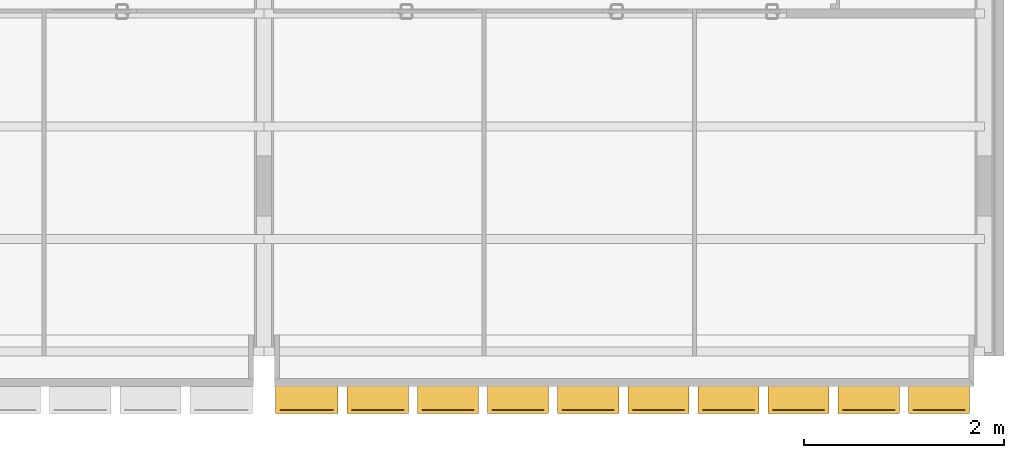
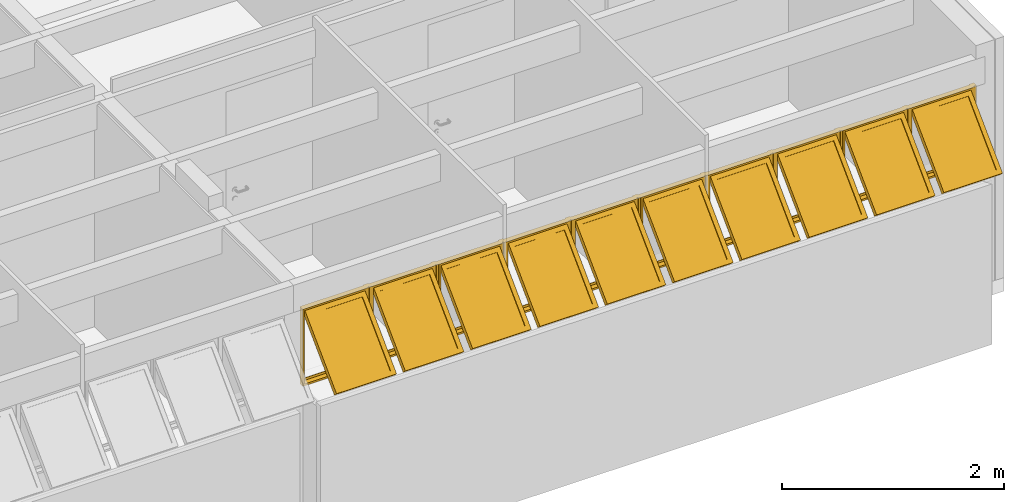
# One storey, part 16 of 22: 1 window.
"""IFC2X3 building model written with IfcOpenShell, lengths in millimetres."""

import ifcopenshell
import ifcopenshell.guid

model = None  # the IFC model being written
_history = None  # IfcOwnerHistory: only IFC2X3 demands one
_inside = {}  # id of a spatial element -> (the spatial element, [elements in it])
_under = {}  # id of a project, library or spatial element -> (it, [spatial elements below it])
_declared = {}  # id of a project -> (the project, [libraries it declares])
_typed = {}  # id of a type object -> (the type object, [elements of that type])
_made_of = {}  # id of a material, layer set ... -> (it, [elements and type objects made of it])


def new_model(schema):
    """Start an empty IFC model of exactly this schema.

    Asked for "IFC4X3", IfcOpenShell would pick the latest addendum, in which some entities
    have other attributes; the version numbers below select the first issue.
    IFC2X3 requires an IfcOwnerHistory on every rooted entity: one is made here for all.
    """
    global model, _history
    if schema == "IFC4X3":
        model = ifcopenshell.file(schema_version=(4, 3, 0, 0))
    else:
        model = ifcopenshell.file(schema=schema)
    _inside.clear()
    _under.clear()
    _declared.clear()
    _typed.clear()
    _made_of.clear()
    _history = None
    if model.schema == "IFC2X3":
        org = make("IfcOrganization", Name="unknown")
        user = make(
            "IfcPersonAndOrganization",
            ThePerson=make("IfcPerson", FamilyName="unknown"),
            TheOrganization=org,
        )
        app = make(
            "IfcApplication",
            ApplicationDeveloper=org,
            Version="unknown",
            ApplicationFullName="unknown",
            ApplicationIdentifier="unknown",
        )
        _history = make(
            "IfcOwnerHistory",
            OwningUser=user,
            OwningApplication=app,
            ChangeAction="ADDED",
            CreationDate=0,
        )
    return model


def make(cls, **values):
    """One entity of the class cls with the attributes given. An attribute that is None is left unset."""
    return model.create_entity(
        cls, **{name: value for name, value in values.items() if value is not None}
    )


def rooted(cls, **values):
    """An entity with a GlobalId (a new one), such as an element, a storey or a relation."""
    return make(cls, GlobalId=ifcopenshell.guid.new(), OwnerHistory=_history, **values)


def si_unit(unit_type, name, prefix=None):
    """IfcSIUnit, for example si_unit("LENGTHUNIT", "METRE", prefix="MILLI")."""
    return make("IfcSIUnit", UnitType=unit_type, Prefix=prefix, Name=name)


def assignment(units):
    """IfcUnitAssignment: the units of a project."""
    return None if units is None else make("IfcUnitAssignment", Units=units)


def point(xyz):
    """IfcCartesianPoint."""
    return None if xyz is None else make("IfcCartesianPoint", Coordinates=xyz)


def direction(xyz):
    """IfcDirection."""
    return None if xyz is None else make("IfcDirection", DirectionRatios=xyz)


def frame(location, z_axis=None, x_axis=None):
    """IfcAxis2Placement3D, a coordinate frame: its origin and axes. An axis left out is left unset."""
    return make(
        "IfcAxis2Placement3D",
        Location=point(location),
        Axis=direction(z_axis),
        RefDirection=direction(x_axis),
    )


def frame_2d(location, x_axis=None):
    """IfcAxis2Placement2D, a coordinate frame in the plane: its origin and x axis."""
    return make(
        "IfcAxis2Placement2D", Location=point(location), RefDirection=direction(x_axis)
    )


def origin_with_axes():
    """The frame at (0, 0, 0) with the z axis (0, 0, 1) and the x axis (1, 0, 0) written out."""
    return frame((0.0, 0.0, 0.0), z_axis=(0.0, 0.0, 1.0), x_axis=(1.0, 0.0, 0.0))


def origin_2d_with_axis():
    """The frame at (0, 0) in the plane with the x axis (1, 0) written out."""
    return frame_2d((0.0, 0.0), x_axis=(1.0, 0.0))


def place(relative_to, where):
    """IfcLocalPlacement: puts the frame where relative to a parent placement (None: the world)."""
    return make(
        "IfcLocalPlacement", PlacementRelTo=relative_to, RelativePlacement=where
    )


def context(
    kind, dimensions, precision=None, world=None, true_north=None, identifier=None
):
    """IfcGeometricRepresentationContext, for example the 3D "Model" context."""
    return make(
        "IfcGeometricRepresentationContext",
        ContextIdentifier=identifier,
        ContextType=kind,
        CoordinateSpaceDimension=dimensions,
        Precision=precision,
        WorldCoordinateSystem=world,
        TrueNorth=true_north,
    )


def subcontext(parent, identifier, kind, view, scale=None):
    """IfcGeometricRepresentationSubContext, for example "Body" below "Model"."""
    return make(
        "IfcGeometricRepresentationSubContext",
        ContextIdentifier=identifier,
        ContextType=kind,
        ParentContext=parent,
        TargetScale=scale,
        TargetView=view,
    )


def project(units=None, contexts=None):
    """IfcProject with its units and contexts."""
    return rooted(
        "IfcProject",
        Name="project",
        RepresentationContexts=contexts,
        UnitsInContext=assignment(units),
    )


def spatial(cls, under=None, at=None, **own):
    """A site, building, storey or space (cls), placed at a placement, below another one or the project."""
    s = rooted(cls, ObjectPlacement=at, **own)
    if under is not None:
        _under.setdefault(under.id(), (under, []))[1].append(s)
    return s


def polyline(points):
    """IfcPolyline through the points."""
    return make("IfcPolyline", Points=[point(p) for p in points])


def profile(cls, at=None, kind="AREA", **sizes):
    """A parametric profile (cls). Its sizes go by their IFC names, for example OverallWidth=200.0."""
    return make(cls, ProfileType=kind, Position=at, **sizes)


def rectangle(**sizes):
    """IfcRectangleProfileDef."""
    return profile("IfcRectangleProfileDef", **sizes)


def outline(outer, holes=None, kind="AREA"):
    """IfcArbitraryClosedProfileDef: a profile drawn as a closed curve; with holes, ...WithVoids."""
    if holes is None:
        return make("IfcArbitraryClosedProfileDef", ProfileType=kind, OuterCurve=outer)
    return make(
        "IfcArbitraryProfileDefWithVoids",
        ProfileType=kind,
        OuterCurve=outer,
        InnerCurves=holes,
    )


def extrude(swept, where, along, depth):
    """IfcExtrudedAreaSolid: the profile swept, set in the frame where, extruded along a direction by depth."""
    return make(
        "IfcExtrudedAreaSolid",
        SweptArea=swept,
        Position=where,
        ExtrudedDirection=direction(along),
        Depth=depth,
    )


def shape(context_of_items, identifier, shape_type, items):
    """IfcShapeRepresentation: the items that make up one representation, for example the "Body"."""
    return make(
        "IfcShapeRepresentation",
        ContextOfItems=context_of_items,
        RepresentationIdentifier=identifier,
        RepresentationType=shape_type,
        Items=items,
    )


def source(mapping_origin, context_of_items, identifier, shape_type, items):
    """IfcRepresentationMap: a shape defined once, which mapped items show again and again."""
    return make(
        "IfcRepresentationMap",
        MappingOrigin=mapping_origin,
        MappedRepresentation=shape(context_of_items, identifier, shape_type, items),
    )


def transform(
    local_origin,
    x_axis=None,
    y_axis=None,
    z_axis=None,
    scale=None,
    scale2=None,
    scale3=None,
    uniform=True,
):
    """IfcCartesianTransformationOperator3D, or its non-uniform kind. x_axis, y_axis, z_axis: its Axis1, 2, 3."""
    if uniform:
        return make(
            "IfcCartesianTransformationOperator3D",
            Axis1=direction(x_axis),
            Axis2=direction(y_axis),
            LocalOrigin=point(local_origin),
            Scale=scale,
            Axis3=direction(z_axis),
        )
    return make(
        "IfcCartesianTransformationOperator3DnonUniform",
        Axis1=direction(x_axis),
        Axis2=direction(y_axis),
        LocalOrigin=point(local_origin),
        Scale=scale,
        Axis3=direction(z_axis),
        Scale2=scale2,
        Scale3=scale3,
    )


def mapped(mapping_source, mapping_target):
    """IfcMappedItem: shows the shape of a source again, moved by a transform."""
    return make(
        "IfcMappedItem", MappingSource=mapping_source, MappingTarget=mapping_target
    )


def made_of(thing, what):
    """Note that an element or type object is made of a material, layer set ...; save() writes the relation."""
    if what is not None:
        _made_of.setdefault(what.id(), (what, []))[1].append(thing)
    return thing


def type_object(cls, material=None, **own):
    """A type object (cls), such as IfcWallType, which elements share."""
    return made_of(rooted(cls, **own), material)


def type_shapes(of_type, sources):
    """Give a type object the sources (RepresentationMaps) that its elements show as mapped items."""
    of_type.RepresentationMaps = sources


def element(
    cls,
    number,
    at=None,
    inside=None,
    cuts=None,
    type_object=None,
    material=None,
    context=None,
    identifier="Body",
    shape_type=None,
    held_by="IfcProductDefinitionShape",
    body=None,
    shapes=None,
    **own,
):
    """One element of the class cls, such as IfcWall. Its Tag is "e" and its number.

    at: its placement. inside: the storey or other place that contains it. cuts: it is an
    opening in that element (IfcRelVoidsElement). A single representation is given by context,
    identifier, shape_type and body (its items); several are given by shapes. held_by: the class
    of the entity that holds the representations. save() writes the other relations.
    """
    e = rooted(cls, Tag="e%d" % number, ObjectPlacement=at, **own)
    if body is not None:
        shapes = [shape(context, identifier, shape_type, body)]
    if shapes is not None:
        e.Representation = make(held_by, Representations=shapes)
    if inside is not None:
        _inside.setdefault(inside.id(), (inside, []))[1].append(e)
    if cuts is not None:
        rooted(
            "IfcRelVoidsElement", RelatingBuildingElement=cuts, RelatedOpeningElement=e
        )
    if type_object is not None:
        _typed.setdefault(type_object.id(), (type_object, []))[1].append(e)
    return made_of(e, material)


def aggregate(whole, parts):
    """IfcRelAggregates: a whole, such as a stair, and the parts it consists of."""
    return rooted("IfcRelAggregates", RelatingObject=whole, RelatedObjects=parts)


def save(model, path):
    """Write the relations noted so far, then the file.

    IfcRelAggregates (storeys below a building ...), IfcRelContainedInSpatialStructure (elements
    in a storey), IfcRelDefinesByType, IfcRelAssociatesMaterial and IfcRelDeclares: one each for
    every whole, place, type object, material and project.
    """
    for whole, parts in _under.values():
        aggregate(whole, parts)
    for where, things in _inside.values():
        rooted(
            "IfcRelContainedInSpatialStructure",
            RelatedElements=things,
            RelatingStructure=where,
        )
    for kind, things in _typed.values():
        rooted("IfcRelDefinesByType", RelatedObjects=things, RelatingType=kind)
    for what, things in _made_of.values():
        rooted("IfcRelAssociatesMaterial", RelatedObjects=things, RelatingMaterial=what)
    for by, libraries in _declared.values():
        rooted("IfcRelDeclares", RelatingContext=by, RelatedDefinitions=libraries)
    model.write(path)


model = new_model("IFC2X3")

# Units and contexts
model_context = context("Model", 3, precision=1e-05, world=origin_with_axes(), true_north=direction((0.0, 1.0)))
body_context = subcontext(model_context, "Body", "Model", "MODEL_VIEW")
ifc_project = project(units=[si_unit("LENGTHUNIT", "METRE", prefix="MILLI"), si_unit("AREAUNIT", "SQUARE_METRE"), si_unit("VOLUMEUNIT", "CUBIC_METRE"), si_unit("PLANEANGLEUNIT", "RADIAN"), si_unit("TIMEUNIT", "SECOND"), si_unit("MASSUNIT", "GRAM")], contexts=[model_context])

# Site, building, storey
site_placement = place(None, origin_with_axes())
site = spatial("IfcSite", under=ifc_project, at=site_placement, Name="Site", CompositionType="ELEMENT")
building_placement = place(site_placement, origin_with_axes())
building = spatial("IfcBuilding", under=site, at=building_placement, Name="Construção", CompositionType="COMPLEX")
storey_placement = place(building_placement, frame((0.0, 0.0, 2650.0), z_axis=(0.0, 0.0, 1.0), x_axis=(1.0, 0.0, 0.0)))
storey = spatial("IfcBuildingStorey", under=building, at=storey_placement, Name="Segundo Pavimento", CompositionType="COMPLEX", Elevation=2650.0)

# Window
window_style = type_object("IfcWindowStyle", ConstructionType="NOTDEFINED", OperationType="NOTDEFINED", ParameterTakesPrecedence=False, Sizeable=False)
shared_shape_1 = source(origin_with_axes(), body_context, "Body", "SweptSolid", [
    extrude(outline(polyline([(324.99999695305, -22.5), (-324.99999695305, -22.5), (-279.99999695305, 22.5), (279.99999695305, 22.5), (324.99999695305, -22.5)])), frame((-350.0000005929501, 22.5, -40.0), z_axis=(0.0, 0.0, 1.0), x_axis=(1.0, 0.0, 0.0)), (0.0, 0.0, 1.0), 5.0),
    extrude(outline(polyline([(-22.5, -422.499945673), (-22.5, 422.499945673), (22.5, 377.499945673), (22.5, -377.499945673), (-22.5, -422.499945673)])), frame((-652.499997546, 422.499945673, -40.0), z_axis=(0.0, 0.0, 1.0), x_axis=(1.0, 0.0, 0.0)), (0.0, 0.0, 1.0), 5.0),
    extrude(outline(polyline([(324.99999695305, 22.5), (279.99999695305, -22.5), (-279.9999969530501, -22.5), (-324.9999969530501, 22.5), (324.99999695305, 22.5)])), frame((-350.00000059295, 822.499891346, -40.0), z_axis=(0.0, 0.0, 1.0), x_axis=(1.0, 0.0, 0.0)), (0.0, 0.0, 1.0), 5.0),
    extrude(outline(polyline([(22.5, -422.499945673), (-22.5, -377.499945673), (-22.5, 377.499945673), (22.5, 422.499945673), (22.5, -422.499945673)])), frame((-47.5000036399, 422.499945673, -40.0), z_axis=(0.0, 0.0, 1.0), x_axis=(1.0, 0.0, 0.0)), (0.0, 0.0, 1.0), 5.0),
    extrude(outline(polyline([(324.99999695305, -10.0), (-324.99999695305, -10.0), (-304.99999695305, 10.0), (304.99999695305, 10.0), (324.99999695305, -10.0)])), frame((-350.0000005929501, 10.0, -35.0), z_axis=(0.0, 0.0, 1.0), x_axis=(1.0, 0.0, 0.0)), (0.0, 0.0, 1.0), 50.0),
    extrude(outline(polyline([(-10.0, -422.499945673), (-10.0, 422.499945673), (10.0, 402.499945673), (10.0, -402.499945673), (-10.0, -422.499945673)])), frame((-664.999997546, 422.499945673, -35.0), z_axis=(0.0, 0.0, 1.0), x_axis=(1.0, 0.0, 0.0)), (0.0, 0.0, 1.0), 50.0),
    extrude(outline(polyline([(324.99999695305, 10.0), (304.99999695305, -10.0), (-304.9999969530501, -10.0), (-324.9999969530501, 10.0), (324.99999695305, 10.0)])), frame((-350.00000059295, 834.999891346, -35.0), z_axis=(0.0, 0.0, 1.0), x_axis=(1.0, 0.0, 0.0)), (0.0, 0.0, 1.0), 50.0),
    extrude(outline(polyline([(10.0, -422.499945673), (-10.0, -402.499945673), (-10.0, 402.499945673), (10.0, 422.499945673), (10.0, -422.499945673)])), frame((-35.0000036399, 422.499945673, -35.0), z_axis=(0.0, 0.0, 1.0), x_axis=(1.0, 0.0, 0.0)), (0.0, 0.0, 1.0), 50.0),
    extrude(rectangle(XDim=844.999891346, YDim=19.99999787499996, at=frame_2d((0.0, 0.0), x_axis=(0.0, 1.0))), frame((-684.9999964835, 422.499945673, -10.0), z_axis=(0.0, 0.0, 1.0), x_axis=(1.0, 0.0, 0.0)), (0.0, 0.0, 1.0), 20.0),
    extrude(rectangle(XDim=844.999891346, YDim=19.99999787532, at=frame_2d((0.0, 0.0), x_axis=(0.0, 1.0))), frame((-15.00000470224, 422.499945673, -10.0), z_axis=(0.0, 0.0, 1.0), x_axis=(1.0, 0.0, 0.0)), (0.0, 0.0, 1.0), 20.0),
    extrude(outline(polyline([(-22.5, -357.4999456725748), (-22.50000000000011, 357.499945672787), (22.5, 402.4999456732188), (22.5, -402.4999456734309), (-22.5, -357.4999456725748)])), frame((-67.5000036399, 505.034111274, 264.2551019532), z_axis=(4.714640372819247e-12, 0.7071067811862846, 0.7071067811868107), x_axis=(1.0, 0.0, 0.0)), (0.0, 0.0, 1.0), 55.00000000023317),
    extrude(outline(polyline([(-22.5, -402.4999456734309), (-22.50000000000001, 402.4999456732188), (22.5, 357.499945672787), (22.5, -357.4999456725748), (-22.5, -402.4999456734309)])), frame((-632.499997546, 505.034111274, 264.2551019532), z_axis=(4.714640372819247e-12, 0.7071067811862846, 0.7071067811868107), x_axis=(1.0, 0.0, 0.0)), (0.0, 0.0, 1.0), 55.00000000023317),
    extrude(outline(polyline([(-304.9999969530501, -22.50000000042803), (-259.9999969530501, 22.50000000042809), (259.99999695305, 22.50000000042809), (304.99999695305, -22.50000000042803), (-304.9999969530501, -22.50000000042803)])), frame((-350.0000005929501, 236.333572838, 532.955640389), z_axis=(4.714640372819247e-12, 0.7071067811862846, 0.7071067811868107), x_axis=(1.0, 0.0, 0.0)), (0.0, 0.0, 1.0), 55.00000000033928),
    extrude(outline(polyline([(304.99999695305, 22.500000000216), (259.99999695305, -22.500000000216), (-259.9999969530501, -22.500000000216), (-304.9999969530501, 22.500000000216), (304.99999695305, 22.500000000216)])), frame((-350.00000059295, 773.73464971, -4.4454364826), z_axis=(4.714640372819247e-12, 0.7071067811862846, 0.7071067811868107), x_axis=(1.0, 0.0, 0.0)), (0.0, 0.0, 1.0), 55.00000000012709),
])
shared_shape_2 = source(origin_with_axes(), body_context, "Body", "SweptSolid", [
    extrude(rectangle(XDim=519.9999939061, YDim=16.00000000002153, at=origin_2d_with_axis()), frame((-350.0000005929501, 783.9876980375, 37.627416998), z_axis=(0.0, -0.7071067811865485, 0.7071067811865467), x_axis=(1.0, 0.0, 0.0)), (0.0, 0.0, 1.0), 714.9998913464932),
])
shared_shape_3 = source(origin_with_axes(), body_context, "Body", "MappedRepresentation", [
    mapped(shared_shape_1, transform((8870.0, 315.020977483, 4005.02054151), x_axis=(1.0, 0.0, 0.0), y_axis=(0.0, 0.0, 1.0), z_axis=(0.0, -1.0, 0.0), scale=1.0)),
    mapped(shared_shape_2, transform((8870.0, 315.020977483, 4005.02054151), x_axis=(1.0, 0.0, 0.0), y_axis=(0.0, 0.0, 1.0), z_axis=(0.0, -1.0, 0.0), scale=1.0)),
])
shared_shape_4 = source(origin_with_axes(), body_context, "Body", "SweptSolid", [
    extrude(outline(polyline([(332.50003730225, -22.5), (-332.50003730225, -22.5), (-287.50003730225, 22.5), (287.50003730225, 22.5), (332.50003730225, -22.5)])), frame((-357.50004190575, 22.5, -40.0), z_axis=(0.0, 0.0, 1.0), x_axis=(1.0, 0.0, 0.0)), (0.0, 0.0, 1.0), 5.0),
    extrude(outline(polyline([(-22.5, -422.499961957), (-22.5, 422.499961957), (22.5, 377.499961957), (22.5, -377.499961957), (-22.5, -422.499961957)])), frame((-667.500079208, 422.499961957, -40.0), z_axis=(0.0, 0.0, 1.0), x_axis=(1.0, 0.0, 0.0)), (0.0, 0.0, 1.0), 5.0),
    extrude(outline(polyline([(332.50003730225, 22.5), (287.50003730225, -22.5), (-287.50003730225, -22.5), (-332.50003730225, 22.5), (332.50003730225, 22.5)])), frame((-357.50004190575, 822.499923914, -40.0), z_axis=(0.0, 0.0, 1.0), x_axis=(1.0, 0.0, 0.0)), (0.0, 0.0, 1.0), 5.0),
    extrude(outline(polyline([(22.5, -422.499961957), (-22.5, -377.499961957), (-22.5, 377.499961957), (22.5, 422.499961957), (22.5, -422.499961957)])), frame((-47.5000046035, 422.499961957, -40.0), z_axis=(0.0, 0.0, 1.0), x_axis=(1.0, 0.0, 0.0)), (0.0, 0.0, 1.0), 5.0),
    extrude(outline(polyline([(332.50003730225, -10.0), (-332.50003730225, -10.0), (-312.50003730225, 10.0), (312.50003730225, 10.0), (332.50003730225, -10.0)])), frame((-357.50004190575, 10.0, -35.0), z_axis=(0.0, 0.0, 1.0), x_axis=(1.0, 0.0, 0.0)), (0.0, 0.0, 1.0), 50.0),
    extrude(outline(polyline([(-10.0, -422.499961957), (-10.0, 422.499961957), (10.0, 402.499961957), (10.0, -402.499961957), (-10.0, -422.499961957)])), frame((-680.000079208, 422.499961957, -35.0), z_axis=(0.0, 0.0, 1.0), x_axis=(1.0, 0.0, 0.0)), (0.0, 0.0, 1.0), 50.0),
    extrude(outline(polyline([(332.50003730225, 10.0), (312.50003730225, -10.0), (-312.50003730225, -10.0), (-332.50003730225, 10.0), (332.50003730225, 10.0)])), frame((-357.50004190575, 834.999923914, -35.0), z_axis=(0.0, 0.0, 1.0), x_axis=(1.0, 0.0, 0.0)), (0.0, 0.0, 1.0), 50.0),
    extrude(outline(polyline([(10.0, -422.499961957), (-10.0, -402.499961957), (-10.0, 402.499961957), (10.0, 422.499961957), (10.0, -422.499961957)])), frame((-35.0000046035, 422.499961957, -35.0), z_axis=(0.0, 0.0, 1.0), x_axis=(1.0, 0.0, 0.0)), (0.0, 0.0, 1.0), 50.0),
    extrude(rectangle(XDim=844.999923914, YDim=19.99999864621, at=frame_2d((0.0, 0.0), x_axis=(0.0, 1.0))), frame((-15.000005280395, 422.499961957, -10.0), z_axis=(0.0, 0.0, 1.0), x_axis=(1.0, 0.0, 0.0)), (0.0, 0.0, 1.0), 20.0),
    extrude(outline(polyline([(-22.50000000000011, -357.4999619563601), (-22.50000000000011, 357.4999619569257), (22.5, 402.4999619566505), (22.5, -402.4999619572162), (-22.50000000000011, -357.4999619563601)])), frame((-67.5000046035, 505.03413232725, 264.2551134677), z_axis=(4.714640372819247e-12, 0.7071067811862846, 0.7071067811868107), x_axis=(1.0, 0.0, 0.0)), (0.0, 0.0, 1.0), 54.99999999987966),
    extrude(outline(polyline([(-22.50000000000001, -402.4999619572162), (-22.50000000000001, 402.4999619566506), (22.49999999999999, 357.4999619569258), (22.5, -357.49996195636), (-22.50000000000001, -402.4999619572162)])), frame((-647.500079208, 505.0341323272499, 264.2551134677), z_axis=(4.714640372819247e-12, 0.7071067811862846, 0.7071067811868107), x_axis=(1.0, 0.0, 0.0)), (0.0, 0.0, 1.0), 54.9999999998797),
    extrude(outline(polyline([(-312.50003730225, -22.50000000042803), (-267.50003730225, 22.50000000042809), (267.50003730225, 22.50000000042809), (312.50003730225, -22.50000000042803), (-312.50003730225, -22.50000000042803)])), frame((-357.50004190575, 236.333582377, 532.955663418), z_axis=(4.714640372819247e-12, 0.7071067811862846, 0.7071067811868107), x_axis=(1.0, 0.0, 0.0)), (0.0, 0.0, 1.0), 54.99999999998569),
    extrude(outline(polyline([(312.50003730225, 22.49999999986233), (267.50003730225, -22.49999999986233), (-267.50003730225, -22.49999999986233), (-312.50003730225, 22.49999999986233), (312.50003730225, 22.49999999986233)])), frame((-357.50004190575, 773.7346822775, -4.4454364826), z_axis=(4.714640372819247e-12, 0.7071067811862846, 0.7071067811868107), x_axis=(1.0, 0.0, 0.0)), (0.0, 0.0, 1.0), 54.99999999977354),
])
shared_shape_5 = source(origin_with_axes(), body_context, "Body", "SweptSolid", [
    extrude(rectangle(XDim=535.0000746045, YDim=16.00000000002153, at=origin_2d_with_axis()), frame((-357.50004190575, 783.9877306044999, 37.627416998), z_axis=(0.0, -0.7071067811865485, 0.7071067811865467), x_axis=(1.0, 0.0, 0.0)), (0.0, 0.0, 1.0), 714.9999239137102),
])
shared_shape_6 = source(origin_with_axes(), body_context, "Body", "MappedRepresentation", [
    mapped(shared_shape_4, transform((8170.0, 315.020977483, 4005.020541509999), x_axis=(1.0, 0.0, 0.0), y_axis=(0.0, 0.0, 1.0), z_axis=(0.0, -1.0, 0.0), scale=1.0)),
    mapped(shared_shape_5, transform((8170.0, 315.020977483, 4005.020541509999), x_axis=(1.0, 0.0, 0.0), y_axis=(0.0, 0.0, 1.0), z_axis=(0.0, -1.0, 0.0), scale=1.0)),
])
shared_shape_7 = source(origin_with_axes(), body_context, "Body", "SweptSolid", [
    extrude(outline(polyline([(324.99999695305, -22.5), (-324.99999695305, -22.5), (-279.99999695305, 22.5), (279.99999695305, 22.5), (324.99999695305, -22.5)])), frame((-350.0000005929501, 22.5, -40.0), z_axis=(0.0, 0.0, 1.0), x_axis=(1.0, 0.0, 0.0)), (0.0, 0.0, 1.0), 5.0),
    extrude(outline(polyline([(-22.5, -422.499945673), (-22.5, 422.499945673), (22.5, 377.499945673), (22.5, -377.499945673), (-22.5, -422.499945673)])), frame((-652.499997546, 422.499945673, -40.0), z_axis=(0.0, 0.0, 1.0), x_axis=(1.0, 0.0, 0.0)), (0.0, 0.0, 1.0), 5.0),
    extrude(outline(polyline([(324.99999695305, 22.5), (279.99999695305, -22.5), (-279.9999969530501, -22.5), (-324.9999969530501, 22.5), (324.99999695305, 22.5)])), frame((-350.00000059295, 822.499891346, -40.0), z_axis=(0.0, 0.0, 1.0), x_axis=(1.0, 0.0, 0.0)), (0.0, 0.0, 1.0), 5.0),
    extrude(outline(polyline([(22.5, -422.499945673), (-22.5, -377.499945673), (-22.5, 377.499945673), (22.5, 422.499945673), (22.5, -422.499945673)])), frame((-47.5000036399, 422.499945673, -40.0), z_axis=(0.0, 0.0, 1.0), x_axis=(1.0, 0.0, 0.0)), (0.0, 0.0, 1.0), 5.0),
    extrude(outline(polyline([(324.99999695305, -10.0), (-324.99999695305, -10.0), (-304.99999695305, 10.0), (304.99999695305, 10.0), (324.99999695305, -10.0)])), frame((-350.0000005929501, 10.0, -35.0), z_axis=(0.0, 0.0, 1.0), x_axis=(1.0, 0.0, 0.0)), (0.0, 0.0, 1.0), 50.0),
    extrude(outline(polyline([(-10.0, -422.499945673), (-10.0, 422.499945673), (10.0, 402.499945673), (10.0, -402.499945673), (-10.0, -422.499945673)])), frame((-664.999997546, 422.499945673, -35.0), z_axis=(0.0, 0.0, 1.0), x_axis=(1.0, 0.0, 0.0)), (0.0, 0.0, 1.0), 50.0),
    extrude(outline(polyline([(324.99999695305, 10.0), (304.99999695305, -10.0), (-304.9999969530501, -10.0), (-324.9999969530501, 10.0), (324.99999695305, 10.0)])), frame((-350.00000059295, 834.999891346, -35.0), z_axis=(0.0, 0.0, 1.0), x_axis=(1.0, 0.0, 0.0)), (0.0, 0.0, 1.0), 50.0),
    extrude(outline(polyline([(10.0, -422.499945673), (-10.0, -402.499945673), (-10.0, 402.499945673), (10.0, 422.499945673), (10.0, -422.499945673)])), frame((-35.0000036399, 422.499945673, -35.0), z_axis=(0.0, 0.0, 1.0), x_axis=(1.0, 0.0, 0.0)), (0.0, 0.0, 1.0), 50.0),
    extrude(rectangle(XDim=844.999891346, YDim=19.99999787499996, at=frame_2d((0.0, 0.0), x_axis=(0.0, 1.0))), frame((-684.9999964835, 422.499945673, -10.0), z_axis=(0.0, 0.0, 1.0), x_axis=(1.0, 0.0, 0.0)), (0.0, 0.0, 1.0), 20.0),
    extrude(rectangle(XDim=844.999891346, YDim=19.99999787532, at=frame_2d((0.0, 0.0), x_axis=(0.0, 1.0))), frame((-15.00000470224, 422.499945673, -10.0), z_axis=(0.0, 0.0, 1.0), x_axis=(1.0, 0.0, 0.0)), (0.0, 0.0, 1.0), 20.0),
    extrude(outline(polyline([(-22.5, -357.4999456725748), (-22.50000000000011, 357.499945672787), (22.5, 402.4999456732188), (22.5, -402.4999456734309), (-22.5, -357.4999456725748)])), frame((-67.5000036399, 505.034111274, 264.2551019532), z_axis=(4.714640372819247e-12, 0.7071067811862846, 0.7071067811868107), x_axis=(1.0, 0.0, 0.0)), (0.0, 0.0, 1.0), 55.00000000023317),
    extrude(outline(polyline([(-22.5, -402.4999456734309), (-22.50000000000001, 402.4999456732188), (22.5, 357.499945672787), (22.5, -357.4999456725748), (-22.5, -402.4999456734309)])), frame((-632.499997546, 505.034111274, 264.2551019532), z_axis=(4.714640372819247e-12, 0.7071067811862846, 0.7071067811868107), x_axis=(1.0, 0.0, 0.0)), (0.0, 0.0, 1.0), 55.00000000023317),
    extrude(outline(polyline([(-304.9999969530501, -22.50000000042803), (-259.9999969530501, 22.50000000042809), (259.99999695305, 22.50000000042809), (304.99999695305, -22.50000000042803), (-304.9999969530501, -22.50000000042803)])), frame((-350.0000005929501, 236.333572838, 532.955640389), z_axis=(4.714640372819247e-12, 0.7071067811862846, 0.7071067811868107), x_axis=(1.0, 0.0, 0.0)), (0.0, 0.0, 1.0), 55.00000000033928),
    extrude(outline(polyline([(304.99999695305, 22.500000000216), (259.99999695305, -22.500000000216), (-259.9999969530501, -22.500000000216), (-304.9999969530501, 22.500000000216), (304.99999695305, 22.500000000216)])), frame((-350.00000059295, 773.73464971, -4.4454364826), z_axis=(4.714640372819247e-12, 0.7071067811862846, 0.7071067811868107), x_axis=(1.0, 0.0, 0.0)), (0.0, 0.0, 1.0), 55.00000000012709),
])
shared_shape_8 = source(origin_with_axes(), body_context, "Body", "SweptSolid", [
    extrude(rectangle(XDim=519.9999939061, YDim=16.00000000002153, at=origin_2d_with_axis()), frame((-350.0000005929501, 783.9876980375, 37.627416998), z_axis=(0.0, -0.7071067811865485, 0.7071067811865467), x_axis=(1.0, 0.0, 0.0)), (0.0, 0.0, 1.0), 714.9998913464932),
])
shared_shape_9 = source(origin_with_axes(), body_context, "Body", "MappedRepresentation", [
    mapped(shared_shape_7, transform((14470.0, 315.020977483, 4005.02054151), x_axis=(1.0, 0.0, 0.0), y_axis=(0.0, 0.0, 1.0), z_axis=(0.0, -1.0, 0.0), scale=1.0)),
    mapped(shared_shape_8, transform((14470.0, 315.020977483, 4005.02054151), x_axis=(1.0, 0.0, 0.0), y_axis=(0.0, 0.0, 1.0), z_axis=(0.0, -1.0, 0.0), scale=1.0)),
])
shared_shape_10 = source(origin_with_axes(), body_context, "Body", "MappedRepresentation", [
    mapped(shared_shape_7, transform((13770.0, 315.020977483, 4005.02054151), x_axis=(1.0, 0.0, 0.0), y_axis=(0.0, 0.0, 1.0), z_axis=(0.0, -1.0, 0.0), scale=1.0)),
    mapped(shared_shape_8, transform((13770.0, 315.020977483, 4005.02054151), x_axis=(1.0, 0.0, 0.0), y_axis=(0.0, 0.0, 1.0), z_axis=(0.0, -1.0, 0.0), scale=1.0)),
])
shared_shape_11 = source(origin_with_axes(), body_context, "Body", "SweptSolid", [
    extrude(outline(polyline([(324.99999695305, -22.5), (-324.99999695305, -22.5), (-279.99999695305, 22.5), (279.99999695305, 22.5), (324.99999695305, -22.5)])), frame((-350.0000005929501, 22.5, -40.0), z_axis=(0.0, 0.0, 1.0), x_axis=(1.0, 0.0, 0.0)), (0.0, 0.0, 1.0), 5.0),
    extrude(outline(polyline([(-22.5, -422.499945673), (-22.5, 422.499945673), (22.5, 377.499945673), (22.5, -377.499945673), (-22.5, -422.499945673)])), frame((-652.499997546, 422.499945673, -40.0), z_axis=(0.0, 0.0, 1.0), x_axis=(1.0, 0.0, 0.0)), (0.0, 0.0, 1.0), 5.0),
    extrude(outline(polyline([(324.99999695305, 22.5), (279.99999695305, -22.5), (-279.9999969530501, -22.5), (-324.9999969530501, 22.5), (324.99999695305, 22.5)])), frame((-350.00000059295, 822.499891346, -40.0), z_axis=(0.0, 0.0, 1.0), x_axis=(1.0, 0.0, 0.0)), (0.0, 0.0, 1.0), 5.0),
    extrude(outline(polyline([(22.5, -422.499945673), (-22.5, -377.499945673), (-22.5, 377.499945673), (22.5, 422.499945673), (22.5, -422.499945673)])), frame((-47.5000036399, 422.499945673, -40.0), z_axis=(0.0, 0.0, 1.0), x_axis=(1.0, 0.0, 0.0)), (0.0, 0.0, 1.0), 5.0),
    extrude(outline(polyline([(324.99999695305, -10.0), (-324.99999695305, -10.0), (-304.99999695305, 10.0), (304.99999695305, 10.0), (324.99999695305, -10.0)])), frame((-350.0000005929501, 10.0, -35.0), z_axis=(0.0, 0.0, 1.0), x_axis=(1.0, 0.0, 0.0)), (0.0, 0.0, 1.0), 50.0),
    extrude(outline(polyline([(-10.0, -422.499945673), (-10.0, 422.499945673), (10.0, 402.499945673), (10.0, -402.499945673), (-10.0, -422.499945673)])), frame((-664.999997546, 422.499945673, -35.0), z_axis=(0.0, 0.0, 1.0), x_axis=(1.0, 0.0, 0.0)), (0.0, 0.0, 1.0), 50.0),
    extrude(outline(polyline([(324.99999695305, 10.0), (304.99999695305, -10.0), (-304.9999969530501, -10.0), (-324.9999969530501, 10.0), (324.99999695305, 10.0)])), frame((-350.00000059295, 834.999891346, -35.0), z_axis=(0.0, 0.0, 1.0), x_axis=(1.0, 0.0, 0.0)), (0.0, 0.0, 1.0), 50.0),
    extrude(outline(polyline([(10.0, -422.499945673), (-10.0, -402.499945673), (-10.0, 402.499945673), (10.0, 422.499945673), (10.0, -422.499945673)])), frame((-35.0000036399, 422.499945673, -35.0), z_axis=(0.0, 0.0, 1.0), x_axis=(1.0, 0.0, 0.0)), (0.0, 0.0, 1.0), 50.0),
    extrude(rectangle(XDim=844.999891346, YDim=19.99999787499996, at=frame_2d((0.0, 0.0), x_axis=(0.0, 1.0))), frame((-684.9999964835, 422.499945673, -10.0), z_axis=(0.0, 0.0, 1.0), x_axis=(1.0, 0.0, 0.0)), (0.0, 0.0, 1.0), 20.0),
    extrude(rectangle(XDim=844.999891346, YDim=19.99999787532, at=frame_2d((0.0, 0.0), x_axis=(0.0, 1.0))), frame((-15.00000470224, 422.499945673, -10.0), z_axis=(0.0, 0.0, 1.0), x_axis=(1.0, 0.0, 0.0)), (0.0, 0.0, 1.0), 20.0),
    extrude(outline(polyline([(-22.5, -357.4999456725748), (-22.50000000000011, 357.499945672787), (22.5, 402.4999456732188), (22.5, -402.4999456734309), (-22.5, -357.4999456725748)])), frame((-67.5000036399, 505.034111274, 264.2551019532), z_axis=(4.714640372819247e-12, 0.7071067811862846, 0.7071067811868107), x_axis=(1.0, 0.0, 0.0)), (0.0, 0.0, 1.0), 55.00000000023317),
    extrude(outline(polyline([(-22.5, -402.4999456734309), (-22.50000000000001, 402.4999456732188), (22.5, 357.499945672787), (22.5, -357.4999456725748), (-22.5, -402.4999456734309)])), frame((-632.499997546, 505.034111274, 264.2551019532), z_axis=(4.714640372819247e-12, 0.7071067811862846, 0.7071067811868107), x_axis=(1.0, 0.0, 0.0)), (0.0, 0.0, 1.0), 55.00000000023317),
    extrude(outline(polyline([(-304.9999969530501, -22.50000000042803), (-259.9999969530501, 22.50000000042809), (259.99999695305, 22.50000000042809), (304.99999695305, -22.50000000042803), (-304.9999969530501, -22.50000000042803)])), frame((-350.0000005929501, 236.333572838, 532.955640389), z_axis=(4.714640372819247e-12, 0.7071067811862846, 0.7071067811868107), x_axis=(1.0, 0.0, 0.0)), (0.0, 0.0, 1.0), 55.00000000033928),
    extrude(outline(polyline([(304.99999695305, 22.500000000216), (259.99999695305, -22.500000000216), (-259.9999969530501, -22.500000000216), (-304.9999969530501, 22.500000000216), (304.99999695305, 22.500000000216)])), frame((-350.00000059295, 773.73464971, -4.4454364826), z_axis=(4.714640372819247e-12, 0.7071067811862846, 0.7071067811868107), x_axis=(1.0, 0.0, 0.0)), (0.0, 0.0, 1.0), 55.00000000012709),
])
shared_shape_12 = source(origin_with_axes(), body_context, "Body", "SweptSolid", [
    extrude(rectangle(XDim=519.9999939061, YDim=16.00000000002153, at=origin_2d_with_axis()), frame((-350.0000005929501, 783.9876980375, 37.627416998), z_axis=(0.0, -0.7071067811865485, 0.7071067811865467), x_axis=(1.0, 0.0, 0.0)), (0.0, 0.0, 1.0), 714.9998913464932),
])
shared_shape_13 = source(origin_with_axes(), body_context, "Body", "MappedRepresentation", [
    mapped(shared_shape_11, transform((11670.0, 315.020977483, 4005.02054151), x_axis=(1.0, 0.0, 0.0), y_axis=(0.0, 0.0, 1.0), z_axis=(0.0, -1.0, 0.0), scale=1.0)),
    mapped(shared_shape_12, transform((11670.0, 315.020977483, 4005.02054151), x_axis=(1.0, 0.0, 0.0), y_axis=(0.0, 0.0, 1.0), z_axis=(0.0, -1.0, 0.0), scale=1.0)),
])
shared_shape_14 = source(origin_with_axes(), body_context, "Body", "MappedRepresentation", [
    mapped(shared_shape_7, transform((10970.0, 315.020977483, 4005.02054151), x_axis=(1.0, 0.0, 0.0), y_axis=(0.0, 0.0, 1.0), z_axis=(0.0, -1.0, 0.0), scale=1.0)),
    mapped(shared_shape_8, transform((10970.0, 315.020977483, 4005.02054151), x_axis=(1.0, 0.0, 0.0), y_axis=(0.0, 0.0, 1.0), z_axis=(0.0, -1.0, 0.0), scale=1.0)),
])
shared_shape_15 = source(origin_with_axes(), body_context, "Body", "MappedRepresentation", [
    mapped(shared_shape_1, transform((9570.0, 315.020977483, 4005.02054151), x_axis=(1.0, 0.0, 0.0), y_axis=(0.0, 0.0, 1.0), z_axis=(0.0, -1.0, 0.0), scale=1.0)),
    mapped(shared_shape_2, transform((9570.0, 315.020977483, 4005.02054151), x_axis=(1.0, 0.0, 0.0), y_axis=(0.0, 0.0, 1.0), z_axis=(0.0, -1.0, 0.0), scale=1.0)),
])
shared_shape_16 = source(origin_with_axes(), body_context, "Body", "MappedRepresentation", [
    mapped(shared_shape_11, transform((13070.0, 315.020977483, 4005.02054151), x_axis=(1.0, 0.0, 0.0), y_axis=(0.0, 0.0, 1.0), z_axis=(0.0, -1.0, 0.0), scale=1.0)),
    mapped(shared_shape_12, transform((13070.0, 315.020977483, 4005.02054151), x_axis=(1.0, 0.0, 0.0), y_axis=(0.0, 0.0, 1.0), z_axis=(0.0, -1.0, 0.0), scale=1.0)),
])
shared_shape_17 = source(origin_with_axes(), body_context, "Body", "MappedRepresentation", [
    mapped(shared_shape_1, transform((10270.0, 315.020977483, 4005.02054151), x_axis=(1.0, 0.0, 0.0), y_axis=(0.0, 0.0, 1.0), z_axis=(0.0, -1.0, 0.0), scale=1.0)),
    mapped(shared_shape_2, transform((10270.0, 315.020977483, 4005.02054151), x_axis=(1.0, 0.0, 0.0), y_axis=(0.0, 0.0, 1.0), z_axis=(0.0, -1.0, 0.0), scale=1.0)),
])
shared_shape_18 = source(origin_with_axes(), body_context, "Body", "MappedRepresentation", [
    mapped(shared_shape_1, transform((12370.0, 315.020977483, 4005.02054151), x_axis=(1.0, 0.0, 0.0), y_axis=(0.0, 0.0, 1.0), z_axis=(0.0, -1.0, 0.0), scale=1.0)),
    mapped(shared_shape_2, transform((12370.0, 315.020977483, 4005.02054151), x_axis=(1.0, 0.0, 0.0), y_axis=(0.0, 0.0, 1.0), z_axis=(0.0, -1.0, 0.0), scale=1.0)),
])
shared_shape_19 = source(origin_with_axes(), body_context, "Body", "SweptSolid", [
    extrude(rectangle(XDim=844.999928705, YDim=50.0, at=frame_2d((0.0, 0.0), x_axis=(0.0, 1.0))), frame((3525.0, 422.4999643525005, -50.0), z_axis=(0.0, 0.0, 1.0), x_axis=(1.0, 0.0, 0.0)), (0.0, 0.0, 1.0), 50.0),
])
shared_shape_20 = source(origin_with_axes(), body_context, "Body", "SweptSolid", [
    extrude(rectangle(XDim=844.999928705, YDim=50.0, at=frame_2d((0.0, 0.0), x_axis=(0.0, 1.0))), frame((4225.0, 422.4999643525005, -50.0), z_axis=(0.0, 0.0, 1.0), x_axis=(1.0, 0.0, 0.0)), (0.0, 0.0, 1.0), 50.0),
])
shared_shape_21 = source(origin_with_axes(), body_context, "Body", "SweptSolid", [
    extrude(rectangle(XDim=844.999928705, YDim=50.0, at=frame_2d((0.0, 0.0), x_axis=(0.0, 1.0))), frame((4925.0, 422.4999643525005, -50.0), z_axis=(0.0, 0.0, 1.0), x_axis=(1.0, 0.0, 0.0)), (0.0, 0.0, 1.0), 50.0),
])
shared_shape_22 = source(origin_with_axes(), body_context, "Body", "SweptSolid", [
    extrude(rectangle(XDim=844.999928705, YDim=50.0, at=frame_2d((0.0, 0.0), x_axis=(0.0, 1.0))), frame((2125.0, 422.4999643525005, -50.0), z_axis=(0.0, 0.0, 1.0), x_axis=(1.0, 0.0, 0.0)), (0.0, 0.0, 1.0), 50.0),
])
shared_shape_23 = source(origin_with_axes(), body_context, "Body", "SweptSolid", [
    extrude(rectangle(XDim=844.999928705, YDim=50.0, at=frame_2d((0.0, 0.0), x_axis=(0.0, 1.0))), frame((5625.0, 422.4999643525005, -50.0), z_axis=(0.0, 0.0, 1.0), x_axis=(1.0, 0.0, 0.0)), (0.0, 0.0, 1.0), 50.0),
])
shared_shape_24 = source(origin_with_axes(), body_context, "Body", "SweptSolid", [
    extrude(rectangle(XDim=844.999928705, YDim=50.0, at=frame_2d((0.0, 0.0), x_axis=(0.0, 1.0))), frame((6325.0, 422.4999643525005, -50.0), z_axis=(0.0, 0.0, 1.0), x_axis=(1.0, 0.0, 0.0)), (0.0, 0.0, 1.0), 50.0),
])
shared_shape_25 = source(origin_with_axes(), body_context, "Body", "SweptSolid", [
    extrude(rectangle(XDim=844.999928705, YDim=50.0, at=frame_2d((0.0, 0.0), x_axis=(0.0, 1.0))), frame((25.0, 422.4999643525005, -50.0), z_axis=(0.0, 0.0, 1.0), x_axis=(1.0, 0.0, 0.0)), (0.0, 0.0, 1.0), 50.0),
])
shared_shape_26 = source(origin_with_axes(), body_context, "Body", "SweptSolid", [
    extrude(rectangle(XDim=844.999928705, YDim=50.0, at=frame_2d((0.0, 0.0), x_axis=(0.0, 1.0))), frame((2825.0, 422.4999643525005, -50.0), z_axis=(0.0, 0.0, 1.0), x_axis=(1.0, 0.0, 0.0)), (0.0, 0.0, 1.0), 50.0),
])
shared_shape_27 = source(origin_with_axes(), body_context, "Body", "SweptSolid", [
    extrude(rectangle(XDim=844.999928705, YDim=50.0, at=frame_2d((0.0, 0.0), x_axis=(0.0, 1.0))), frame((1425.0, 422.4999643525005, -50.0), z_axis=(0.0, 0.0, 1.0), x_axis=(1.0, 0.0, 0.0)), (0.0, 0.0, 1.0), 50.0),
])
shared_shape_28 = source(origin_with_axes(), body_context, "Body", "SweptSolid", [
    extrude(rectangle(XDim=844.999928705, YDim=50.0, at=frame_2d((0.0, 0.0), x_axis=(0.0, 1.0))), frame((725.0, 422.4999643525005, -50.0), z_axis=(0.0, 0.0, 1.0), x_axis=(1.0, 0.0, 0.0)), (0.0, 0.0, 1.0), 50.0),
])
shared_shape_29 = source(origin_with_axes(), body_context, "Body", "MappedRepresentation", [
    mapped(shared_shape_3, transform((14495.0, -4005.020541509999, -365.020977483), x_axis=(-1.0, 0.0, 0.0), y_axis=(0.0, 0.0, 1.0), z_axis=(0.0, 1.0, 0.0), scale=1.0)),
    mapped(shared_shape_6, transform((14495.0, -4005.020541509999, -365.020977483), x_axis=(-1.0, 0.0, 0.0), y_axis=(0.0, 0.0, 1.0), z_axis=(0.0, 1.0, 0.0), scale=1.0)),
    mapped(shared_shape_9, transform((14495.0, -4005.020541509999, -365.020977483), x_axis=(-1.0, 0.0, 0.0), y_axis=(0.0, 0.0, 1.0), z_axis=(0.0, 1.0, 0.0), scale=1.0)),
    mapped(shared_shape_10, transform((14495.0, -4005.020541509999, -365.020977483), x_axis=(-1.0, 0.0, 0.0), y_axis=(0.0, 0.0, 1.0), z_axis=(0.0, 1.0, 0.0), scale=1.0)),
    mapped(shared_shape_13, transform((14495.0, -4005.020541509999, -365.020977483), x_axis=(-1.0, 0.0, 0.0), y_axis=(0.0, 0.0, 1.0), z_axis=(0.0, 1.0, 0.0), scale=1.0)),
    mapped(shared_shape_14, transform((14495.0, -4005.020541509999, -365.020977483), x_axis=(-1.0, 0.0, 0.0), y_axis=(0.0, 0.0, 1.0), z_axis=(0.0, 1.0, 0.0), scale=1.0)),
    mapped(shared_shape_15, transform((14495.0, -4005.020541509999, -365.020977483), x_axis=(-1.0, 0.0, 0.0), y_axis=(0.0, 0.0, 1.0), z_axis=(0.0, 1.0, 0.0), scale=1.0)),
    mapped(shared_shape_16, transform((14495.0, -4005.020541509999, -365.020977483), x_axis=(-1.0, 0.0, 0.0), y_axis=(0.0, 0.0, 1.0), z_axis=(0.0, 1.0, 0.0), scale=1.0)),
    mapped(shared_shape_17, transform((14495.0, -4005.020541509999, -365.020977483), x_axis=(-1.0, 0.0, 0.0), y_axis=(0.0, 0.0, 1.0), z_axis=(0.0, 1.0, 0.0), scale=1.0)),
    mapped(shared_shape_18, transform((14495.0, -4005.020541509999, -365.020977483), x_axis=(-1.0, 0.0, 0.0), y_axis=(0.0, 0.0, 1.0), z_axis=(0.0, 1.0, 0.0), scale=1.0)),
    mapped(shared_shape_19, transform((0.0, 0.0, 0.0))),
    mapped(shared_shape_20, transform((0.0, 0.0, 0.0))),
    mapped(shared_shape_21, transform((0.0, 0.0, 0.0))),
    mapped(shared_shape_22, transform((0.0, 0.0, 0.0))),
    mapped(shared_shape_23, transform((0.0, 0.0, 0.0))),
    mapped(shared_shape_24, transform((0.0, 0.0, 0.0))),
    mapped(shared_shape_25, transform((0.0, 0.0, 0.0))),
    mapped(shared_shape_26, transform((0.0, 0.0, 0.0))),
    mapped(shared_shape_27, transform((0.0, 0.0, 0.0))),
    mapped(shared_shape_28, transform((0.0, 0.0, 0.0))),
])
type_shapes(window_style, [shared_shape_29])
window_placement = place(storey_placement, frame((14495.0, 365.020977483, 1355.020541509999), z_axis=(0.0, 0.0, 1.0), x_axis=(-1.0, 0.0, 0.0)))
element("IfcWindow", 1, at=window_placement, inside=storey, type_object=window_style, Name="APTO6-JANELA-001", context=body_context, shape_type="MappedRepresentation", body=[
    mapped(shared_shape_29, transform((0.0, 0.0, 0.0), x_axis=(1.0, 0.0, 0.0), y_axis=(0.0, 0.0, 1.0), z_axis=(0.0, -1.0, 0.0), scale=1.0)),
])

save(model, "model.ifc")
